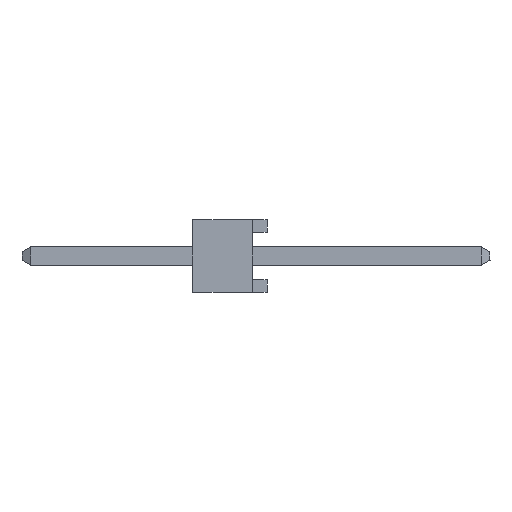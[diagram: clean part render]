
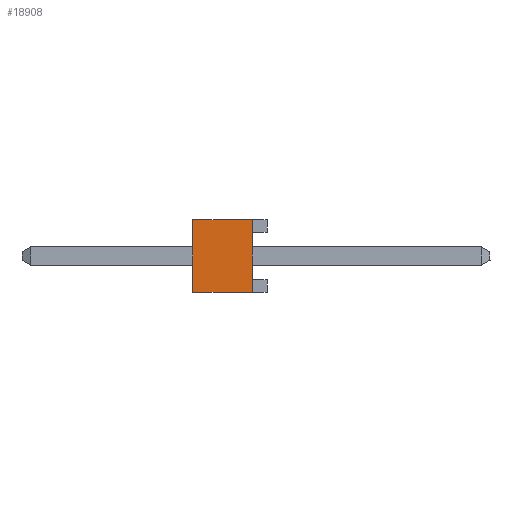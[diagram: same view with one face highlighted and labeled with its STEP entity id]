
A CAD part, left-side view. The second image highlights one B-rep face of the part: STEP entity #18908.
In plain terms, the highlighted planar face has unit normal (-1, 0, 0).
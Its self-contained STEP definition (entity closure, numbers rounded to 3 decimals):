
#59 = PLANE('',#60);
#60 = AXIS2_PLACEMENT_3D('',#61,#62,#63);
#61 = CARTESIAN_POINT('',(-37.849,0.508,2.489));
#62 = DIRECTION('',(0.,-1.,0.));
#63 = DIRECTION('',(0.,0.,-1.));
#141 = PLANE('',#142);
#142 = AXIS2_PLACEMENT_3D('',#143,#144,#145);
#143 = CARTESIAN_POINT('',(38.1,2.54,-1.245));
#144 = DIRECTION('',(0.,-0.,1.));
#145 = DIRECTION('',(1.,0.,0.));
#376 = PLANE('',#377);
#377 = AXIS2_PLACEMENT_3D('',#378,#379,#380);
#378 = CARTESIAN_POINT('',(-38.1,2.54,1.245));
#379 = DIRECTION('',(0.,0.,-1.));
#380 = DIRECTION('',(-1.,0.,0.));
#9069 = PLANE('',#9070);
#9070 = AXIS2_PLACEMENT_3D('',#9071,#9072,#9073);
#9071 = CARTESIAN_POINT('',(0.,2.54,0.));
#9072 = DIRECTION('',(0.,1.,-0.));
#9073 = DIRECTION('',(0.,0.,1.));
#9298 = VERTEX_POINT('',#9299);
#9299 = CARTESIAN_POINT('',(-38.1,2.54,1.245));
#9322 = VERTEX_POINT('',#9323);
#9323 = CARTESIAN_POINT('',(-38.1,2.54,-1.245));
#9344 = EDGE_CURVE('',#9322,#9298,#9345,.T.);
#9345 = SURFACE_CURVE('',#9346,(#9350,#9357),.PCURVE_S1.);
#9346 = LINE('',#9347,#9348);
#9347 = CARTESIAN_POINT('',(-38.1,2.54,-1.245));
#9348 = VECTOR('',#9349,1.);
#9349 = DIRECTION('',(0.,0.,1.));
#9350 = PCURVE('',#9069,#9351);
#9351 = DEFINITIONAL_REPRESENTATION('',(#9352),#9356);
#9352 = LINE('',#9353,#9354);
#9353 = CARTESIAN_POINT('',(-1.245,-38.1));
#9354 = VECTOR('',#9355,1.);
#9355 = DIRECTION('',(1.,0.));
#9356 = ( GEOMETRIC_REPRESENTATION_CONTEXT(2) 
PARAMETRIC_REPRESENTATION_CONTEXT() REPRESENTATION_CONTEXT('2D SPACE',''
  ) );
#9357 = PCURVE('',#9358,#9363);
#9358 = PLANE('',#9359);
#9359 = AXIS2_PLACEMENT_3D('',#9360,#9361,#9362);
#9360 = CARTESIAN_POINT('',(-38.1,2.54,-1.245));
#9361 = DIRECTION('',(1.,0.,0.));
#9362 = DIRECTION('',(0.,0.,-1.));
#9363 = DEFINITIONAL_REPRESENTATION('',(#9364),#9368);
#9364 = LINE('',#9365,#9366);
#9365 = CARTESIAN_POINT('',(0.,0.));
#9366 = VECTOR('',#9367,1.);
#9367 = DIRECTION('',(-1.,0.));
#9368 = ( GEOMETRIC_REPRESENTATION_CONTEXT(2) 
PARAMETRIC_REPRESENTATION_CONTEXT() REPRESENTATION_CONTEXT('2D SPACE',''
  ) );
#18735 = EDGE_CURVE('',#9298,#18736,#18738,.T.);
#18736 = VERTEX_POINT('',#18737);
#18737 = CARTESIAN_POINT('',(-38.1,0.508,1.245));
#18738 = SURFACE_CURVE('',#18739,(#18743,#18750),.PCURVE_S1.);
#18739 = LINE('',#18740,#18741);
#18740 = CARTESIAN_POINT('',(-38.1,2.54,1.245));
#18741 = VECTOR('',#18742,1.);
#18742 = DIRECTION('',(-0.,-1.,-0.));
#18743 = PCURVE('',#376,#18744);
#18744 = DEFINITIONAL_REPRESENTATION('',(#18745),#18749);
#18745 = LINE('',#18746,#18747);
#18746 = CARTESIAN_POINT('',(0.,0.));
#18747 = VECTOR('',#18748,1.);
#18748 = DIRECTION('',(0.,-1.));
#18749 = ( GEOMETRIC_REPRESENTATION_CONTEXT(2) 
PARAMETRIC_REPRESENTATION_CONTEXT() REPRESENTATION_CONTEXT('2D SPACE',''
  ) );
#18750 = PCURVE('',#9358,#18751);
#18751 = DEFINITIONAL_REPRESENTATION('',(#18752),#18756);
#18752 = LINE('',#18753,#18754);
#18753 = CARTESIAN_POINT('',(-2.489,0.));
#18754 = VECTOR('',#18755,1.);
#18755 = DIRECTION('',(0.,-1.));
#18756 = ( GEOMETRIC_REPRESENTATION_CONTEXT(2) 
PARAMETRIC_REPRESENTATION_CONTEXT() REPRESENTATION_CONTEXT('2D SPACE',''
  ) );
#18908 = ADVANCED_FACE('',(#18909),#9358,.F.);
#18909 = FACE_BOUND('',#18910,.T.);
#18910 = EDGE_LOOP('',(#18911,#18934,#18935,#18936));
#18911 = ORIENTED_EDGE('',*,*,#18912,.F.);
#18912 = EDGE_CURVE('',#18736,#18913,#18915,.T.);
#18913 = VERTEX_POINT('',#18914);
#18914 = CARTESIAN_POINT('',(-38.1,0.508,-1.245));
#18915 = SURFACE_CURVE('',#18916,(#18920,#18927),.PCURVE_S1.);
#18916 = LINE('',#18917,#18918);
#18917 = CARTESIAN_POINT('',(-38.1,0.508,-1.245));
#18918 = VECTOR('',#18919,1.);
#18919 = DIRECTION('',(0.,0.,-1.));
#18920 = PCURVE('',#9358,#18921);
#18921 = DEFINITIONAL_REPRESENTATION('',(#18922),#18926);
#18922 = LINE('',#18923,#18924);
#18923 = CARTESIAN_POINT('',(0.,-2.032));
#18924 = VECTOR('',#18925,1.);
#18925 = DIRECTION('',(1.,0.));
#18926 = ( GEOMETRIC_REPRESENTATION_CONTEXT(2) 
PARAMETRIC_REPRESENTATION_CONTEXT() REPRESENTATION_CONTEXT('2D SPACE',''
  ) );
#18927 = PCURVE('',#59,#18928);
#18928 = DEFINITIONAL_REPRESENTATION('',(#18929),#18933);
#18929 = LINE('',#18930,#18931);
#18930 = CARTESIAN_POINT('',(3.734,-0.251));
#18931 = VECTOR('',#18932,1.);
#18932 = DIRECTION('',(1.,0.));
#18933 = ( GEOMETRIC_REPRESENTATION_CONTEXT(2) 
PARAMETRIC_REPRESENTATION_CONTEXT() REPRESENTATION_CONTEXT('2D SPACE',''
  ) );
#18934 = ORIENTED_EDGE('',*,*,#18735,.F.);
#18935 = ORIENTED_EDGE('',*,*,#9344,.F.);
#18936 = ORIENTED_EDGE('',*,*,#18937,.T.);
#18937 = EDGE_CURVE('',#9322,#18913,#18938,.T.);
#18938 = SURFACE_CURVE('',#18939,(#18943,#18950),.PCURVE_S1.);
#18939 = LINE('',#18940,#18941);
#18940 = CARTESIAN_POINT('',(-38.1,2.54,-1.245));
#18941 = VECTOR('',#18942,1.);
#18942 = DIRECTION('',(-0.,-1.,-0.));
#18943 = PCURVE('',#9358,#18944);
#18944 = DEFINITIONAL_REPRESENTATION('',(#18945),#18949);
#18945 = LINE('',#18946,#18947);
#18946 = CARTESIAN_POINT('',(0.,0.));
#18947 = VECTOR('',#18948,1.);
#18948 = DIRECTION('',(0.,-1.));
#18949 = ( GEOMETRIC_REPRESENTATION_CONTEXT(2) 
PARAMETRIC_REPRESENTATION_CONTEXT() REPRESENTATION_CONTEXT('2D SPACE',''
  ) );
#18950 = PCURVE('',#141,#18951);
#18951 = DEFINITIONAL_REPRESENTATION('',(#18952),#18956);
#18952 = LINE('',#18953,#18954);
#18953 = CARTESIAN_POINT('',(-76.2,0.));
#18954 = VECTOR('',#18955,1.);
#18955 = DIRECTION('',(-0.,-1.));
#18956 = ( GEOMETRIC_REPRESENTATION_CONTEXT(2) 
PARAMETRIC_REPRESENTATION_CONTEXT() REPRESENTATION_CONTEXT('2D SPACE',''
  ) );
